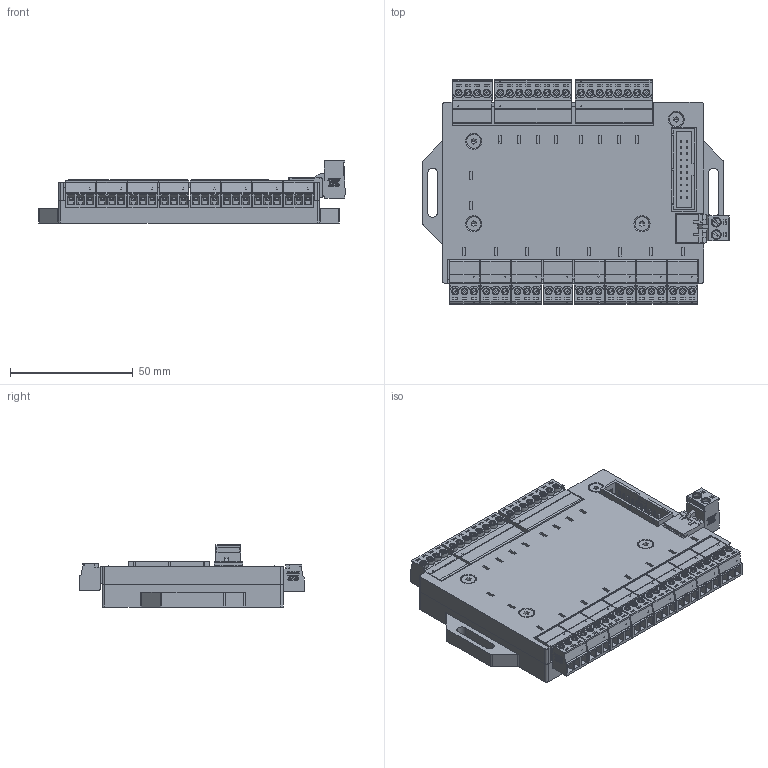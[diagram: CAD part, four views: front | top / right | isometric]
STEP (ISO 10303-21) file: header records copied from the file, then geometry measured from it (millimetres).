
FILE_DESCRIPTION (( 'STEP AP214' ), '1' );
FILE_NAME ('astorino_24VIO.STEP', '2024-05-02T08:37:43', ( '' ), ( '' ), 'SwSTEP 2.0', 'SolidWorks 2021', '' );
FILE_SCHEMA (( 'AUTOMOTIVE_DESIGN' ));
Length unit declared in the file: millimetre
Products named in the file (1): astorino_24VIO
Bounding box: 124.88 x 91.65 x 25.28 mm (x, y, z)
Surface area: 47481.1 mm2 (no closed solid volume)
Topology: 0 solids, 217 shells, 2339 faces, 14168 edges, 11981 vertices
Faces by surface type: plane 1762, cylinder 316, bspline 245, cone 16
Entity records: 203975 total; most frequent: CARTESIAN_POINT 80369, ORIENTED_EDGE 18252, DIRECTION 15656, EDGE_CURVE 14160, VERTEX_POINT 11981, LINE 9370, VECTOR 9370, B_SPLINE_CURVE_WITH_KNOTS 3674
